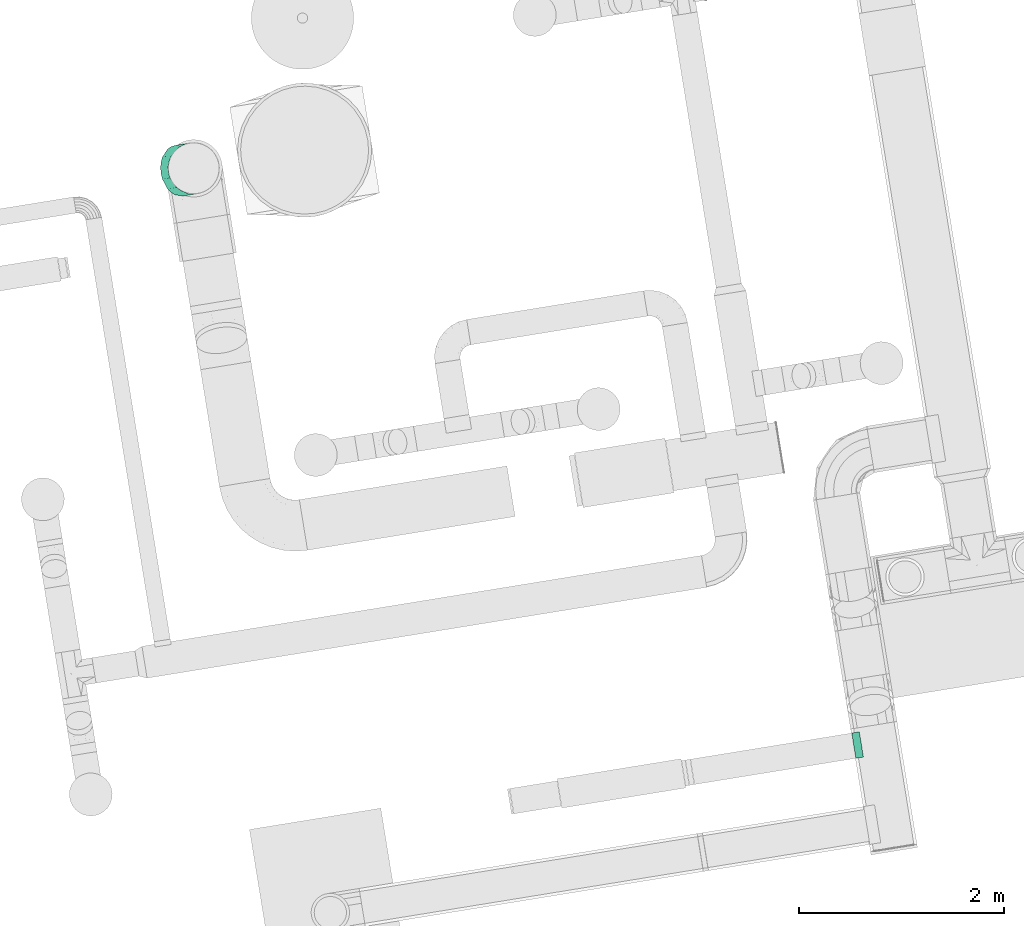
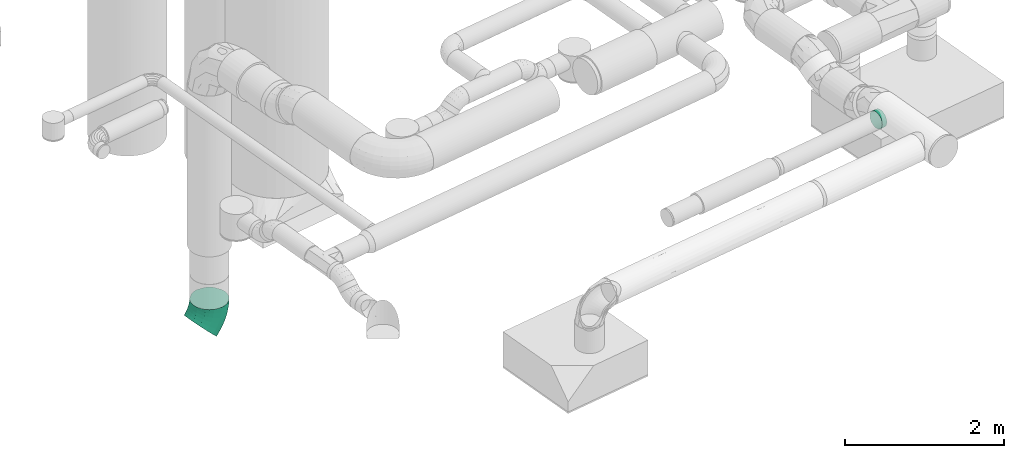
# One storey, part 30 of 39: 2 flow fittings.
"""IFC2X3 building model written with IfcOpenShell, lengths in millimetres."""

from ifc_helpers import new_model, entity, si_unit, converted_unit, derived_unit, direction, frame, origin, origin_with_axes, place, context, subcontext, project, spatial, faceted_brep, source, transform, mapped, material, type_object, element, save


model = new_model("IFC2X3")

# Units and contexts
model_context = context("Model", 3, precision=0.01, world=origin(), true_north=direction((6.12323399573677e-17, 1.0)))
plan_context = context("Plan", 3, precision=1e-05, world=origin_with_axes())
body_context = subcontext(model_context, "Body", "Model", "MODEL_VIEW")
ifc_project = project(units=[converted_unit("PLANEANGLEUNIT", "DEGREE", entity("IfcPositiveLengthMeasure", 0.0174532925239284), si_unit("PLANEANGLEUNIT", "RADIAN"), dimensions=[0, 0, 0, 0, 0, 0, 0]), si_unit("AREAUNIT", "SQUARE_METRE"), si_unit("LENGTHUNIT", "METRE", prefix="MILLI"), si_unit("MASSUNIT", "GRAM", prefix="KILO"), si_unit("POWERUNIT", "WATT"), si_unit("PRESSUREUNIT", "PASCAL", prefix="KILO"), si_unit("FORCEUNIT", "NEWTON", prefix="KILO"), si_unit("ELECTRICVOLTAGEUNIT", "VOLT"), si_unit("ELECTRICCURRENTUNIT", "AMPERE"), si_unit("THERMODYNAMICTEMPERATUREUNIT", "DEGREE_CELSIUS"), si_unit("TIMEUNIT", "SECOND"), si_unit("VOLUMEUNIT", "CUBIC_METRE"), derived_unit("LINEARVELOCITYUNIT", [(si_unit("LENGTHUNIT", "METRE"), 1), (si_unit("TIMEUNIT", "SECOND"), -1)]), derived_unit("VOLUMETRICFLOWRATEUNIT", [(si_unit("VOLUMEUNIT", "CUBIC_METRE"), 1), (si_unit("TIMEUNIT", "SECOND"), -1)]), derived_unit("THERMALTRANSMITTANCEUNIT", [(si_unit("POWERUNIT", "WATT"), 1), (si_unit("THERMODYNAMICTEMPERATUREUNIT", "KELVIN"), -1), (si_unit("AREAUNIT", "SQUARE_METRE"), -1)]), derived_unit("SOUNDPRESSUREUNIT", [(si_unit("PRESSUREUNIT", "PASCAL"), 1)])], contexts=[model_context, plan_context])

# Site, building, storey
site_placement = place(None, frame((-0.00071070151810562, 0.00438415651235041, 0.0), z_axis=(0.0, 0.0, 1.0), x_axis=(-0.160236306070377, 0.987078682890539, 0.0)))
site = spatial("IfcSite", under=ifc_project, at=site_placement, Name="Default", CompositionType="ELEMENT")
building_placement = place(site_placement, origin_with_axes())
building = spatial("IfcBuilding", under=site, at=building_placement, CompositionType="ELEMENT")
storey_placement = place(building_placement, frame((0.0, 0.0, 50999.9999999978), z_axis=(0.0, 0.0, 1.0), x_axis=(1.0, 0.0, 0.0)))
storey = spatial("IfcBuildingStorey", under=building, at=storey_placement, Name="Nivå D", CompositionType="ELEMENT", Elevation=50999.9999999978)

# Flow fittings
ifc_material = material(Name="<Unnamed>")
duct_fitting_type_1 = type_object("IfcDuctFittingType", Name="magicirc_elbow_full_radius_1:magicirc_elbow_full_radius_001", PredefinedType="NOTDEFINED", material=ifc_material)
shared_shape_1 = source(origin(), body_context, "Body", "Brep", [
    faceted_brep([(-89.780932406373, -240.766255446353, 0.0), (-90.7614670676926, -234.575403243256, 55.6302334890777), (-207.106781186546, -243.731978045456, 55.6302334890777), (-207.106781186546, -250.0, 0.0), (-93.6539029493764, -216.313281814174, 108.470934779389), (-207.106781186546, -225.242216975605, 108.470934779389), (-98.3132012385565, -186.895630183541, 155.872450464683), (-207.106781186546, -195.457870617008, 155.872450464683), (-111.920956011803, -100.979647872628, 225.242216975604), (-207.106781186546, -108.470934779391, 225.242216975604), (-120.187062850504, -48.789503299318, 243.731978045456), (-207.106781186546, -55.6302334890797, 243.731978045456), (-128.889548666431, 6.1558297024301, 250.0), (-207.106781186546, 0.0, 250.0), (-145.858141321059, 113.291307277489, 225.242216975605), (-207.106781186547, 108.470934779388, 225.242216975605), (-153.273372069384, 160.109231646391, 195.457870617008), (-207.106781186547, 155.872450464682, 195.457870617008), (-159.465896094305, 199.207289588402, 155.872450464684), (-207.106781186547, 195.457870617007, 155.872450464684), (-167.017630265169, 246.887062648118, 55.6302334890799), (-207.106781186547, 243.731978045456, 55.6302334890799), (-167.998164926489, 253.077914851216, 0.0), (-207.106781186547, 250.0, 0.0), (-167.01763026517, 246.887062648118, -55.6302334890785), (-207.106781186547, 243.731978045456, -55.6302334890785), (-164.125194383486, 228.624941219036, -108.470934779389), (-207.106781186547, 225.242216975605, -108.470934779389), (-159.465896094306, 199.207289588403, -155.872450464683), (-207.106781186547, 195.457870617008, -155.872450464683), (-145.858141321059, 113.29130727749, -225.242216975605), (-207.106781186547, 108.47093477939, -225.242216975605), (-137.592034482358, 61.1011627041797, -243.731978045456), (-207.106781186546, 55.6302334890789, -243.731978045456), (-128.889548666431, 6.15582970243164, -250.0), (-207.106781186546, 0.0, -250.0), (-111.920956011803, -100.979647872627, -225.242216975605), (-207.106781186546, -108.470934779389, -225.242216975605), (-104.505725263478, -147.797572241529, -195.457870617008), (-207.106781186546, -155.872450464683, -195.457870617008), (-98.3132012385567, -186.89563018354, -155.872450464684), (-207.106781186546, -195.457870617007, -155.872450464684), (-90.7614670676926, -234.575403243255, -55.6302334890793), (-207.106781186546, -243.731978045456, -55.6302334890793), (24.6559645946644, -213.292387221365, 0.0), (22.719039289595, -207.331144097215, 55.6302334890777), (17.0053888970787, -189.746336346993, 108.470934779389), (7.80151970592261, -161.419739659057, 155.872450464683), (-19.0789217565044, -78.6902474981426, 225.242216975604), (-35.4075964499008, -28.4357542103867, 243.731978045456), (-52.5982839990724, 24.4717418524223, 250.0), (-86.1176462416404, 127.633731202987, 225.242216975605), (-100.765520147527, 172.715251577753, 195.457870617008), (-112.998087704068, 210.363223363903, 155.872450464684), (-127.91560728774, 256.274627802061, 55.6302334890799), (-129.85253259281, 262.235870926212, 0.0), (-127.91560728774, 256.274627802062, -55.6302334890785), (-122.201956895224, 238.689820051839, -108.470934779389), (-112.998087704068, 210.363223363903, -155.872450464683), (-86.1176462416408, 127.633731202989, -225.242216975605), (-69.7889715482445, 77.3792379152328, -243.731978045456), (-52.5982839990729, 24.4717418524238, -250.0), (-19.0789217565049, -78.6902474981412, -225.242216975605), (-4.43104785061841, -123.771767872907, -195.457870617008), (7.80151970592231, -161.419739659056, -155.872450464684), (22.7190392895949, -207.331144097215, -55.6302334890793), (133.386093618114, -168.254893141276, 0.0), (130.540471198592, -162.670044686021, 55.6302334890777), (122.146295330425, -146.1955469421, 108.470934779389), (108.62448504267, -119.657500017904, 155.872450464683), (69.1332425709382, -42.1515726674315, 225.242216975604), (45.1440661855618, 4.9298369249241, 243.731978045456), (19.8884686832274, 54.4967379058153, 250.0), (-29.3563052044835, 151.145048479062, 225.242216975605), (-50.8761429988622, 193.380108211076, 195.457870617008), (-68.8475476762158, 228.650975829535, 155.872450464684), (-90.763533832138, 271.663520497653, 55.6302334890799), (-93.6091562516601, 277.248368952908, 0.0), (-90.7635338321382, 271.663520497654, -55.6302334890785), (-82.3693579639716, 255.189022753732, -108.470934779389), (-68.8475476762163, 228.650975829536, -155.872450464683), (-29.3563052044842, 151.145048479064, -225.242216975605), (-5.36712881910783, 104.063638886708, -243.731978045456), (19.8884686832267, 54.4967379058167, -250.0), (69.1332425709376, -42.1515726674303, -225.242216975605), (90.6530803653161, -84.3866323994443, -195.457870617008), (108.62448504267, -119.657500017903, -155.872450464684), (130.540471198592, -162.670044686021, -55.6302334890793), (233.732158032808, -106.76274578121, 0.0), (230.047907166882, -101.691809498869, 55.6302334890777), (219.179898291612, -86.7332785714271, 108.470934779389), (201.673098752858, -62.6372362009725, 155.872450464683), (150.543460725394, 7.73667318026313, 225.242216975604), (119.484475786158, 50.4856985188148, 243.731978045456), (86.7858449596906, 95.4915028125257, 250.0), (23.0282291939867, 183.246332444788, 225.242216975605), (-4.83368266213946, 221.594964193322, 195.457870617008), (-28.101408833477, 253.620241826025, 155.872450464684), (-56.4762172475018, 292.674815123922, 55.6302334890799), (-60.1604681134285, 297.745751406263, 0.0), (-56.476217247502, 292.674815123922, -55.6302334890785), (-45.608208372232, 277.71628419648, -108.470934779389), (-28.1014088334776, 253.620241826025, -155.872450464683), (23.0282291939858, 183.246332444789, -225.242216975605), (54.0872141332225, 140.497307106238, -243.731978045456), (86.7858449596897, 95.4915028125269, -250.0), (150.543460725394, 7.73667318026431, -225.242216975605), (178.40537258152, -30.611958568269, -195.457870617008), (201.673098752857, -62.6372362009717, -155.872450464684), (230.047907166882, -101.691809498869, -55.6302334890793), (323.223304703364, -30.3300858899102, 0.0), (318.79114387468, -25.897925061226, 55.6302334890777), (305.716908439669, -12.8236896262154, 108.470934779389), (284.656195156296, 8.23702365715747, 155.872450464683), (223.147142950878, 69.7460758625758, 225.242216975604), (185.783124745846, 107.110094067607, 243.731978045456), (146.446609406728, 146.446609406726, 250.0), (69.7460758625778, 223.147142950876, 225.242216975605), (36.2281426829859, 256.665076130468, 195.457870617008), (8.23702365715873, 284.656195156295, 155.872450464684), (-25.8979250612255, 318.791143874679, 55.6302334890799), (-30.33008588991, 323.223304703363, 0.0), (-25.8979250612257, 318.791143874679, -55.6302334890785), (-12.8236896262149, 305.716908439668, -108.470934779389), (8.23702365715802, 284.656195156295, -155.872450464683), (69.7460758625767, 223.147142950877, -225.242216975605), (107.110094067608, 185.783124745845, -243.731978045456), (146.446609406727, 146.446609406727, -250.0), (223.147142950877, 69.7460758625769, -225.242216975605), (256.665076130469, 36.2281426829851, -195.457870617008), (284.656195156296, 8.23702365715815, -155.872450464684), (318.79114387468, -25.8979250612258, -55.6302334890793)], [[[0, 1, 2, 3]], [[1, 4, 5, 2]], [[4, 6, 7, 5]], [[6, 8, 9, 7]], [[8, 10, 11, 9]], [[10, 12, 13, 11]], [[12, 14, 15, 13]], [[14, 16, 17, 15]], [[16, 18, 19, 17]], [[18, 20, 21, 19]], [[20, 22, 23, 21]], [[22, 24, 25, 23]], [[24, 26, 27, 25]], [[26, 28, 29, 27]], [[28, 30, 31, 29]], [[30, 32, 33, 31]], [[32, 34, 35, 33]], [[34, 36, 37, 35]], [[36, 38, 39, 37]], [[38, 40, 41, 39]], [[40, 42, 43, 41]], [[42, 0, 3, 43]], [[44, 45, 1, 0]], [[45, 46, 4, 1]], [[46, 47, 6, 4]], [[47, 48, 8, 6]], [[48, 49, 10, 8]], [[49, 50, 12, 10]], [[50, 51, 14, 12]], [[51, 52, 16, 14]], [[52, 53, 18, 16]], [[53, 54, 20, 18]], [[54, 55, 22, 20]], [[55, 56, 24, 22]], [[56, 57, 26, 24]], [[57, 58, 28, 26]], [[58, 59, 30, 28]], [[59, 60, 32, 30]], [[60, 61, 34, 32]], [[61, 62, 36, 34]], [[62, 63, 38, 36]], [[63, 64, 40, 38]], [[64, 65, 42, 40]], [[65, 44, 0, 42]], [[66, 67, 45, 44]], [[67, 68, 46, 45]], [[68, 69, 47, 46]], [[69, 70, 48, 47]], [[70, 71, 49, 48]], [[71, 72, 50, 49]], [[72, 73, 51, 50]], [[73, 74, 52, 51]], [[74, 75, 53, 52]], [[75, 76, 54, 53]], [[76, 77, 55, 54]], [[77, 78, 56, 55]], [[78, 79, 57, 56]], [[79, 80, 58, 57]], [[80, 81, 59, 58]], [[81, 82, 60, 59]], [[82, 83, 61, 60]], [[83, 84, 62, 61]], [[84, 85, 63, 62]], [[85, 86, 64, 63]], [[86, 87, 65, 64]], [[87, 66, 44, 65]], [[88, 89, 67, 66]], [[89, 90, 68, 67]], [[90, 91, 69, 68]], [[91, 92, 70, 69]], [[92, 93, 71, 70]], [[93, 94, 72, 71]], [[94, 95, 73, 72]], [[95, 96, 74, 73]], [[96, 97, 75, 74]], [[97, 98, 76, 75]], [[98, 99, 77, 76]], [[99, 100, 78, 77]], [[100, 101, 79, 78]], [[101, 102, 80, 79]], [[102, 103, 81, 80]], [[103, 104, 82, 81]], [[104, 105, 83, 82]], [[105, 106, 84, 83]], [[106, 107, 85, 84]], [[107, 108, 86, 85]], [[108, 109, 87, 86]], [[109, 88, 66, 87]], [[110, 111, 89, 88]], [[111, 112, 90, 89]], [[112, 113, 91, 90]], [[113, 114, 92, 91]], [[114, 115, 93, 92]], [[115, 116, 94, 93]], [[116, 117, 95, 94]], [[117, 118, 96, 95]], [[118, 119, 97, 96]], [[119, 120, 98, 97]], [[120, 121, 99, 98]], [[121, 122, 100, 99]], [[122, 123, 101, 100]], [[123, 124, 102, 101]], [[124, 125, 103, 102]], [[125, 126, 104, 103]], [[126, 127, 105, 104]], [[127, 128, 106, 105]], [[128, 129, 107, 106]], [[129, 130, 108, 107]], [[130, 131, 109, 108]], [[131, 110, 88, 109]], [[3, 2, 5, 7, 9, 11, 13, 15, 17, 19, 21, 23, 25, 27, 29, 31, 33, 35, 37, 39, 41, 43]], [[131, 130, 129, 128, 127, 126, 125, 124, 123, 122, 121, 120, 119, 118, 117, 116, 115, 114, 113, 112, 111, 110]]]),
])
flow_fitting_1_placement = place(storey_placement, frame((776624.566038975, -595037.180498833, -865.399999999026), z_axis=(-1.0, 0.0, 0.0), x_axis=(0.0, -0.707106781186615, 0.70710678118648)))
element("IfcFlowFitting", 1, at=flow_fitting_1_placement, inside=storey, type_object=duct_fitting_type_1, material=ifc_material, Name="magicirc_elbow_full_radius_1:magicirc_elbow_full_radius_001", ObjectType="magicirc_elbow_full_radius_1:magicirc_elbow_full_radius_001", context=body_context, shape_type="MappedRepresentation", body=[
    mapped(shared_shape_1, transform((0.0, 0.0, 0.0), scale=1.0)),
])
duct_fitting_type_2 = type_object("IfcDuctFittingType", Name="magicirc_tapoutlet_1:magicirc_tapoutlet_001", PredefinedType="NOTDEFINED", material=ifc_material)
shared_shape_2 = source(origin(), body_context, "Body", "Brep", [
    faceted_brep([(-49.9710500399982, 0.0, -125.0), (-49.9710500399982, -32.3523806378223, -120.740728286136), (-49.9710500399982, -62.500000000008, -108.253175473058), (-49.9710500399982, -88.3883476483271, -88.3883476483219), (-49.9710500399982, -108.253175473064, -62.5000000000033), (-49.9710500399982, -120.740728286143, -32.352380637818), (-49.9710500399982, -125.0, 0.0), (-49.9710500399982, -120.740728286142, 32.3523806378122), (-49.9710500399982, -108.253175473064, 62.4999999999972), (-49.9710500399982, -88.3883476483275, 88.3883476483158), (-49.9710500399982, -62.5000000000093, 108.253175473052), (-49.9710500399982, -32.3523806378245, 120.740728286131), (-49.9710500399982, 0.0, 125.0), (-49.9710500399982, 32.3523806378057, 120.740728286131), (-49.9710500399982, 62.4999999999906, 108.253175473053), (-49.9710500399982, 88.3883476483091, 88.3883476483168), (-49.9710500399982, 108.253175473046, 62.4999999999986), (-49.9710500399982, 120.740728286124, 32.3523806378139), (-49.9710500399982, 125.0, 0.0), (-49.9710500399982, 120.740728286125, -32.3523806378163), (-49.9710500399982, 108.253175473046, -62.5000000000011), (-49.9710500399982, 88.3883476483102, -88.3883476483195), (-49.9710500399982, 62.4999999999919, -108.253175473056), (-49.9710500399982, 32.3523806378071, -120.740728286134), (0.0, 0.0, 125.0), (25.0, 0.0, 125.0), (25.0, 32.3523806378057, 120.740728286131), (0.0, 32.3523806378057, 120.740728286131), (25.0, 62.4999999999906, 108.253175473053), (0.0, 62.4999999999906, 108.253175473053), (25.0, 88.3883476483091, 88.3883476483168), (0.0, 88.3883476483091, 88.3883476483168), (0.0, 108.253175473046, 62.4999999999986), (25.0, 108.253175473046, 62.4999999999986), (25.0, 120.740728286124, 32.3523806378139), (0.0, 120.740728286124, 32.352380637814), (25.0, 125.0, 0.0), (0.0, 125.0, 0.0), (25.0, 120.740728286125, -32.3523806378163), (0.0, 120.740728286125, -32.3523806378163), (25.0, 108.253175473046, -62.5000000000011), (0.0, 108.253175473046, -62.5000000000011), (25.0, 88.3883476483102, -88.3883476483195), (0.0, 88.3883476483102, -88.3883476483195), (0.0, 62.4999999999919, -108.253175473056), (25.0, 62.4999999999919, -108.253175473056), (25.0, 32.3523806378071, -120.740728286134), (0.0, 32.3523806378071, -120.740728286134), (25.0, 0.0, -125.0), (0.0, 0.0, -125.0), (25.0, -32.3523806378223, -120.740728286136), (0.0, -32.3523806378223, -120.740728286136), (25.0, -62.500000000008, -108.253175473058), (0.0, -62.500000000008, -108.253175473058), (25.0, -88.3883476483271, -88.3883476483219), (0.0, -88.3883476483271, -88.3883476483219), (0.0, -108.253175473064, -62.5000000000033), (25.0, -108.253175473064, -62.5000000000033), (25.0, -120.740728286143, -32.352380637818), (0.0, -120.740728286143, -32.352380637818), (25.0, -125.0, 0.0), (0.0, -125.0, 0.0), (25.0, -120.740728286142, 32.3523806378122), (0.0, -120.740728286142, 32.3523806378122), (25.0, -108.253175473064, 62.4999999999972), (0.0, -108.253175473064, 62.4999999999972), (25.0, -88.3883476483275, 88.3883476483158), (0.0, -88.3883476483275, 88.3883476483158), (0.0, -62.5000000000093, 108.253175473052), (25.0, -62.5000000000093, 108.253175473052), (25.0, -32.3523806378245, 120.740728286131), (0.0, -32.3523806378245, 120.740728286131)], [[[0, 1, 2, 3, 4, 5, 6, 7, 8, 9, 10, 11, 12, 13, 14, 15, 16, 17, 18, 19, 20, 21, 22, 23]], [[12, 24, 25, 26, 27, 13]], [[13, 27, 26, 28, 29, 14]], [[14, 29, 28, 30, 31, 15]], [[16, 32, 33, 34, 35, 17]], [[17, 35, 34, 36, 37, 18]], [[15, 31, 30, 33, 32, 16]], [[18, 37, 36, 38, 39, 19]], [[19, 39, 38, 40, 41, 20]], [[20, 41, 40, 42, 43, 21]], [[22, 44, 45, 46, 47, 23]], [[0, 23, 47, 46, 48, 49]], [[21, 43, 42, 45, 44, 22]], [[0, 49, 48, 50, 51, 1]], [[1, 51, 50, 52, 53, 2]], [[2, 53, 52, 54, 55, 3]], [[4, 56, 57, 58, 59, 5]], [[5, 59, 58, 60, 61, 6]], [[3, 55, 54, 57, 56, 4]], [[6, 61, 60, 62, 63, 7]], [[7, 63, 62, 64, 65, 8]], [[8, 65, 64, 66, 67, 9]], [[10, 68, 69, 70, 71, 11]], [[11, 71, 70, 25, 24, 12]], [[9, 67, 66, 69, 68, 10]], [[46, 45, 42, 40, 38, 36, 34, 33, 30, 28, 26, 25, 70, 69, 66, 64, 62, 60, 58, 57, 54, 52, 50, 48]]]),
    faceted_brep([(25.0, 32.352380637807, -120.740728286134), (25.0, 62.4999999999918, -108.253175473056), (25.0, 88.3883476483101, -88.3883476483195), (25.0, 108.253175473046, -62.5000000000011), (25.0, 120.740728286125, -32.3523806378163), (25.0, 125.0, 0.0), (25.0, 120.740728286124, 32.3523806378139), (25.0, 108.253175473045, 62.4999999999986), (25.0, 88.388347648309, 88.3883476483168), (25.0, 62.4999999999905, 108.253175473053), (25.0, 32.3523806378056, 120.740728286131), (25.0, 0.0, 125.0), (25.0, -32.3523806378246, 120.740728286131), (25.0, -62.5000000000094, 108.253175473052), (25.0, -88.3883476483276, 88.3883476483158), (25.0, -108.253175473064, 62.4999999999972), (25.0, -120.740728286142, 32.3523806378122), (25.0, -125.0, 0.0), (25.0, -120.740728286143, -32.352380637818), (25.0, -108.253175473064, -62.5000000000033), (25.0, -88.3883476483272, -88.3883476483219), (25.0, -62.500000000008, -108.253175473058), (25.0, -32.3523806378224, -120.740728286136), (25.0, 0.0, -125.0), (0.0, 0.0, 125.0), (0.0, 32.3523806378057, 120.740728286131), (-49.971050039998, 32.3523806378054, 120.740728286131), (-49.9710500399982, 0.0, 125.0), (0.0, 62.4999999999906, 108.253175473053), (-49.9710500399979, 62.4999999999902, 108.253175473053), (0.0, 88.3883476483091, 88.3883476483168), (-49.9710500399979, 88.3883476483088, 88.3883476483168), (0.0, 108.253175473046, 62.4999999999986), (0.0, 120.740728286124, 32.3523806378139), (-49.9710500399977, 120.740728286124, 32.3523806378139), (-49.9710500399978, 108.253175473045, 62.4999999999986), (0.0, 125.0, 0.0), (-49.9710500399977, 125.0, 0.0), (0.0, 120.740728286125, -32.3523806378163), (-49.9710500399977, 120.740728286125, -32.3523806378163), (0.0, 108.253175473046, -62.5000000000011), (-49.9710500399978, 108.253175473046, -62.5000000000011), (0.0, 88.3883476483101, -88.3883476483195), (-49.9710500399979, 88.3883476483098, -88.3883476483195), (0.0, 0.0, -125.0), (-49.9710500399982, 0.0, -125.0), (-49.971050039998, 32.3523806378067, -120.740728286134), (0.0, 32.3523806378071, -120.740728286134), (-49.9710500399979, 62.4999999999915, -108.253175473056), (0.0, 62.4999999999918, -108.253175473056), (0.0, -32.3523806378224, -120.740728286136), (-49.9710500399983, -32.3523806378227, -120.740728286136), (0.0, -62.500000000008, -108.253175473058), (-49.9710500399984, -62.5000000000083, -108.253175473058), (0.0, -88.3883476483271, -88.3883476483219), (-49.9710500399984, -88.3883476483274, -88.3883476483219), (0.0, -108.253175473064, -62.5000000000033), (0.0, -120.740728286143, -32.352380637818), (-49.9710500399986, -120.740728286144, -32.352380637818), (-49.9710500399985, -108.253175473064, -62.5000000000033), (0.0, -125.0, 0.0), (-49.9710500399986, -125.0, 0.0), (0.0, -120.740728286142, 32.3523806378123), (-49.9710500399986, -120.740728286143, 32.3523806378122), (0.0, -108.253175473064, 62.4999999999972), (-49.9710500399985, -108.253175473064, 62.4999999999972), (0.0, -88.3883476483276, 88.3883476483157), (-49.9710500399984, -88.3883476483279, 88.3883476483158), (0.0, -62.5000000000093, 108.253175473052), (0.0, -32.3523806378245, 120.740728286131), (-49.9710500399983, -32.3523806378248, 120.740728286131), (-49.9710500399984, -62.5000000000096, 108.253175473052)], [[[0, 1, 2, 3, 4, 5, 6, 7, 8, 9, 10, 11, 12, 13, 14, 15, 16, 17, 18, 19, 20, 21, 22, 23]], [[24, 11, 10, 25, 26, 27]], [[25, 10, 9, 28, 29, 26]], [[28, 9, 8, 30, 31, 29]], [[32, 7, 6, 33, 34, 35]], [[33, 6, 5, 36, 37, 34]], [[30, 8, 7, 32, 35, 31]], [[36, 5, 4, 38, 39, 37]], [[38, 4, 3, 40, 41, 39]], [[40, 3, 2, 42, 43, 41]], [[0, 23, 44, 45, 46, 47]], [[1, 0, 47, 46, 48, 49]], [[42, 2, 1, 49, 48, 43]], [[44, 23, 22, 50, 51, 45]], [[50, 22, 21, 52, 53, 51]], [[52, 21, 20, 54, 55, 53]], [[56, 19, 18, 57, 58, 59]], [[57, 18, 17, 60, 61, 58]], [[54, 20, 19, 56, 59, 55]], [[60, 17, 16, 62, 63, 61]], [[62, 16, 15, 64, 65, 63]], [[64, 15, 14, 66, 67, 65]], [[68, 13, 12, 69, 70, 71]], [[69, 12, 11, 24, 27, 70]], [[66, 14, 13, 68, 71, 67]], [[45, 51, 53, 55, 59, 58, 61, 63, 65, 67, 71, 70, 27, 26, 29, 31, 35, 34, 37, 39, 41, 43, 48, 46]]]),
    faceted_brep([(-49.9710500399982, 0.0, -125.0), (-49.9710500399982, -32.3523806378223, -120.740728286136), (-49.9710500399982, -62.500000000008, -108.253175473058), (-49.9710500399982, -88.3883476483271, -88.3883476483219), (-49.9710500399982, -108.253175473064, -62.5000000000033), (-49.9710500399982, -120.740728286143, -32.352380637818), (-49.9710500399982, -125.0, 0.0), (-49.9710500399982, -120.740728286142, 32.3523806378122), (-49.9710500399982, -108.253175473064, 62.4999999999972), (-49.9710500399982, -88.3883476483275, 88.3883476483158), (-49.9710500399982, -62.5000000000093, 108.253175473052), (-49.9710500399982, -32.3523806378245, 120.740728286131), (-49.9710500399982, 0.0, 125.0), (-49.9710500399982, 32.3523806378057, 120.740728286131), (-49.9710500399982, 62.4999999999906, 108.253175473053), (-49.9710500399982, 88.3883476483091, 88.3883476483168), (-49.9710500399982, 108.253175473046, 62.4999999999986), (-49.9710500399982, 120.740728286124, 32.3523806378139), (-49.9710500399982, 125.0, 0.0), (-49.9710500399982, 120.740728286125, -32.3523806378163), (-49.9710500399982, 108.253175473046, -62.5000000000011), (-49.9710500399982, 88.3883476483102, -88.3883476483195), (-49.9710500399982, 62.4999999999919, -108.253175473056), (-49.9710500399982, 32.3523806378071, -120.740728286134), (0.0, 0.0, 125.0), (25.0, 0.0, 125.0), (25.0, 32.3523806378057, 120.740728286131), (0.0, 32.3523806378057, 120.740728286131), (25.0, 62.4999999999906, 108.253175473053), (0.0, 62.4999999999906, 108.253175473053), (25.0, 88.3883476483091, 88.3883476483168), (0.0, 88.3883476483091, 88.3883476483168), (0.0, 108.253175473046, 62.4999999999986), (25.0, 108.253175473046, 62.4999999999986), (25.0, 120.740728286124, 32.3523806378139), (0.0, 120.740728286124, 32.352380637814), (25.0, 125.0, 0.0), (0.0, 125.0, 0.0), (25.0, 120.740728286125, -32.3523806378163), (0.0, 120.740728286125, -32.3523806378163), (25.0, 108.253175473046, -62.5000000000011), (0.0, 108.253175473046, -62.5000000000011), (25.0, 88.3883476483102, -88.3883476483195), (0.0, 88.3883476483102, -88.3883476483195), (0.0, 62.4999999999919, -108.253175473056), (25.0, 62.4999999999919, -108.253175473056), (25.0, 32.3523806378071, -120.740728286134), (0.0, 32.3523806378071, -120.740728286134), (25.0, 0.0, -125.0), (0.0, 0.0, -125.0), (25.0, -32.3523806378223, -120.740728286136), (0.0, -32.3523806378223, -120.740728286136), (25.0, -62.500000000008, -108.253175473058), (0.0, -62.500000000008, -108.253175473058), (25.0, -88.3883476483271, -88.3883476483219), (0.0, -88.3883476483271, -88.3883476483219), (0.0, -108.253175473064, -62.5000000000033), (25.0, -108.253175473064, -62.5000000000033), (25.0, -120.740728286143, -32.352380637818), (0.0, -120.740728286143, -32.352380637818), (25.0, -125.0, 0.0), (0.0, -125.0, 0.0), (25.0, -120.740728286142, 32.3523806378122), (0.0, -120.740728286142, 32.3523806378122), (25.0, -108.253175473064, 62.4999999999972), (0.0, -108.253175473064, 62.4999999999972), (25.0, -88.3883476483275, 88.3883476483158), (0.0, -88.3883476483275, 88.3883476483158), (0.0, -62.5000000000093, 108.253175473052), (25.0, -62.5000000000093, 108.253175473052), (25.0, -32.3523806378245, 120.740728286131), (0.0, -32.3523806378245, 120.740728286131)], [[[0, 1, 2, 3, 4, 5, 6, 7, 8, 9, 10, 11, 12, 13, 14, 15, 16, 17, 18, 19, 20, 21, 22, 23]], [[12, 24, 25, 26, 27, 13]], [[13, 27, 26, 28, 29, 14]], [[14, 29, 28, 30, 31, 15]], [[16, 32, 33, 34, 35, 17]], [[17, 35, 34, 36, 37, 18]], [[15, 31, 30, 33, 32, 16]], [[18, 37, 36, 38, 39, 19]], [[19, 39, 38, 40, 41, 20]], [[20, 41, 40, 42, 43, 21]], [[22, 44, 45, 46, 47, 23]], [[0, 23, 47, 46, 48, 49]], [[21, 43, 42, 45, 44, 22]], [[0, 49, 48, 50, 51, 1]], [[1, 51, 50, 52, 53, 2]], [[2, 53, 52, 54, 55, 3]], [[4, 56, 57, 58, 59, 5]], [[5, 59, 58, 60, 61, 6]], [[3, 55, 54, 57, 56, 4]], [[6, 61, 60, 62, 63, 7]], [[7, 63, 62, 64, 65, 8]], [[8, 65, 64, 66, 67, 9]], [[10, 68, 69, 70, 71, 11]], [[11, 71, 70, 25, 24, 12]], [[9, 67, 66, 69, 68, 10]], [[46, 45, 42, 40, 38, 36, 34, 33, 30, 28, 26, 25, 70, 69, 66, 64, 62, 60, 58, 57, 54, 52, 50, 48]]]),
])
flow_fitting_2_placement = place(storey_placement, frame((770024.832653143, -600522.905078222, 3250.0), z_axis=(0.0, 0.0, -1.0), x_axis=(0.0, 1.0, 0.0)))
element("IfcFlowFitting", 2, at=flow_fitting_2_placement, inside=storey, type_object=duct_fitting_type_2, material=ifc_material, Name="magicirc_tapoutlet_1:magicirc_tapoutlet_001", ObjectType="magicirc_tapoutlet_1:magicirc_tapoutlet_001", context=body_context, shape_type="MappedRepresentation", body=[
    mapped(shared_shape_2, transform((0.0, 0.0, 0.0), scale=1.0)),
])

save(model, "model.ifc")
